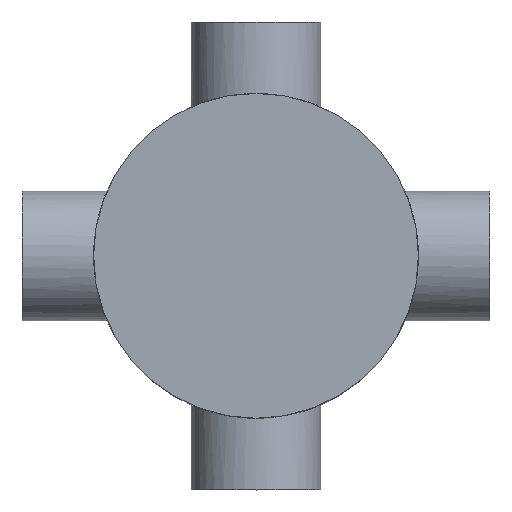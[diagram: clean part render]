
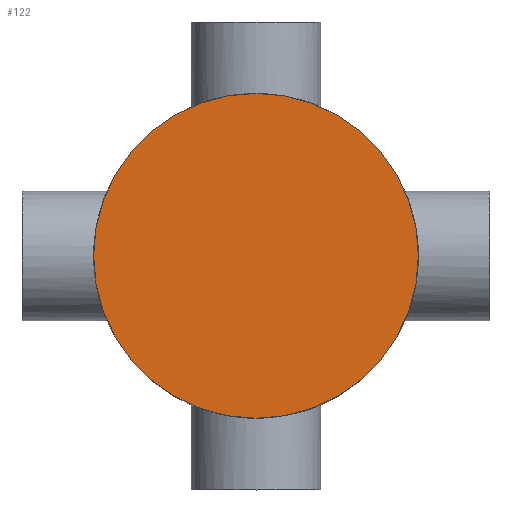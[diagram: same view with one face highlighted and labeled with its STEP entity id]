
A CAD part, top view. The second image highlights one B-rep face of the part: STEP entity #122.
In plain terms, the highlighted planar face has unit normal (0, 0, 1).
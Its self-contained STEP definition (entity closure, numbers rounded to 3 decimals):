
#20=PLANE('',#148);
#26=CIRCLE('',#146,2.5);
#38=ORIENTED_EDGE('',*,*,#56,.F.);
#56=EDGE_CURVE('',#66,#66,#26,.T.);
#66=VERTEX_POINT('',#249);
#82=EDGE_LOOP('',(#38));
#102=FACE_BOUND('',#82,.T.);
#122=ADVANCED_FACE('',(#102),#20,.F.);
#146=AXIS2_PLACEMENT_3D('',#248,#166,#167);
#148=AXIS2_PLACEMENT_3D('',#252,#170,#171);
#166=DIRECTION('',(0.,0.,-1.));
#167=DIRECTION('',(1.,0.,0.));
#170=DIRECTION('',(0.,0.,-1.));
#171=DIRECTION('',(-1.,0.,0.));
#248=CARTESIAN_POINT('',(0.,0.,3.));
#249=CARTESIAN_POINT('',(2.5,0.,3.));
#252=CARTESIAN_POINT('',(0.,0.,3.));
